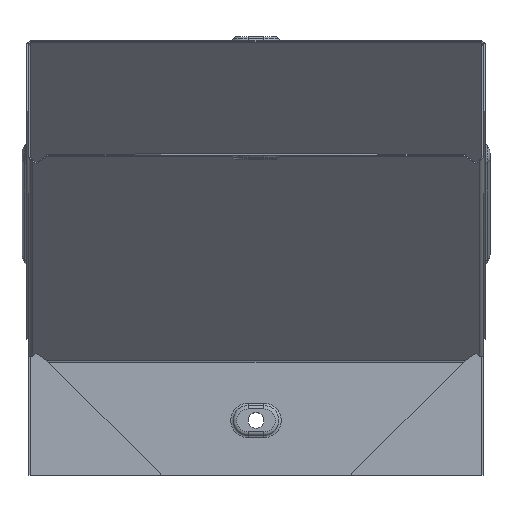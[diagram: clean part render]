
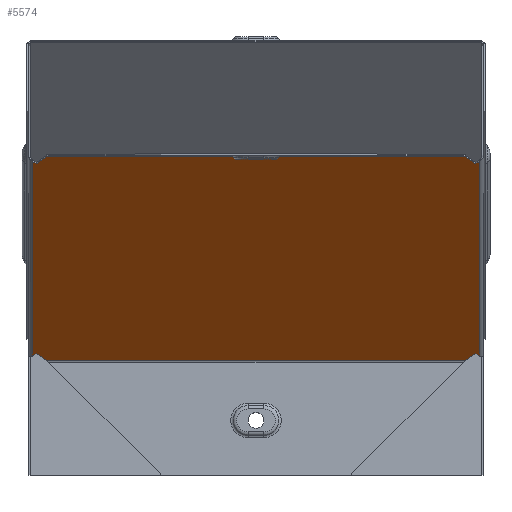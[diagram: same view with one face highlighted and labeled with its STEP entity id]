
A CAD part, top view. The second image highlights one B-rep face of the part: STEP entity #5574.
In plain terms, the highlighted planar face has unit normal (0, -0.707, 0.707).
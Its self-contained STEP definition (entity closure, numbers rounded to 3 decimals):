
#6 = LINE ( 'NONE', #7239, #7191 ) ;
#92 = CARTESIAN_POINT ( 'NONE',  ( -100.299, 69.208, 19.208 ) ) ;
#119 = LINE ( 'NONE', #5381, #3688 ) ;
#203 = EDGE_CURVE ( 'NONE', #3187, #4937, #2830, .T. ) ;
#331 = LINE ( 'NONE', #515, #6036 ) ;
#381 = ORIENTED_EDGE ( 'NONE', *, *, #6304, .T. ) ;
#417 = AXIS2_PLACEMENT_3D ( 'NONE', #7309, #6710, #3172 ) ;
#505 = VECTOR ( 'NONE', #5973, 1000. ) ;
#515 = CARTESIAN_POINT ( 'NONE',  ( 98.2, 70., 20. ) ) ;
#534 = CARTESIAN_POINT ( 'NONE',  ( -96.592, -16.588, -66.588 ) ) ;
#811 = DIRECTION ( 'NONE',  ( 0.707, -0.5, -0.5 ) ) ;
#865 = EDGE_CURVE ( 'NONE', #7234, #3322, #6, .T. ) ;
#868 = VERTEX_POINT ( 'NONE', #1388 ) ;
#948 = VECTOR ( 'NONE', #2337, 1000. ) ;
#1021 = LINE ( 'NONE', #2824, #7084 ) ;
#1062 = DIRECTION ( 'NONE',  ( 0., -0.707, -0.707 ) ) ;
#1109 = DIRECTION ( 'NONE',  ( 0.707, 0.5, 0.5 ) ) ;
#1143 = EDGE_CURVE ( 'NONE', #5464, #1365, #2919, .T. ) ;
#1192 = EDGE_LOOP ( 'NONE', ( #2801, #1221, #5730, #381, #3476, #2197, #2911, #2889, #3342, #5511, #5537, #6218 ) ) ;
#1215 = CARTESIAN_POINT ( 'NONE',  ( -41.546, 105.512, 55.512 ) ) ;
#1221 = ORIENTED_EDGE ( 'NONE', *, *, #7388, .T. ) ;
#1250 = DIRECTION ( 'NONE',  ( -0.707, 0.5, 0.5 ) ) ;
#1365 = VERTEX_POINT ( 'NONE', #1426 ) ;
#1388 = CARTESIAN_POINT ( 'NONE',  ( -98.2, -17.724, -67.724 ) ) ;
#1426 = CARTESIAN_POINT ( 'NONE',  ( -98.2, 67.724, 17.724 ) ) ;
#1466 = DIRECTION ( 'NONE',  ( -0.707, 0.5, 0.5 ) ) ;
#1597 = VERTEX_POINT ( 'NONE', #7020 ) ;
#1813 = VERTEX_POINT ( 'NONE', #5663 ) ;
#1889 = EDGE_CURVE ( 'NONE', #1365, #868, #1021, .T. ) ;
#1926 = EDGE_CURVE ( 'NONE', #1597, #1813, #6805, .T. ) ;
#1960 = LINE ( 'NONE', #1215, #7296 ) ;
#2067 = LINE ( 'NONE', #5921, #505 ) ;
#2197 = ORIENTED_EDGE ( 'NONE', *, *, #1889, .T. ) ;
#2261 = CARTESIAN_POINT ( 'NONE',  ( 96.592, 66.588, 16.588 ) ) ;
#2327 = LINE ( 'NONE', #6067, #5923 ) ;
#2337 = DIRECTION ( 'NONE',  ( -1., 0., 0. ) ) ;
#2357 = DIRECTION ( 'NONE',  ( -1., 0., 0. ) ) ;
#2429 = DIRECTION ( 'NONE',  ( 0.707, -0.5, -0.5 ) ) ;
#2668 = LINE ( 'NONE', #5802, #4265 ) ;
#2801 = ORIENTED_EDGE ( 'NONE', *, *, #4970, .T. ) ;
#2824 = CARTESIAN_POINT ( 'NONE',  ( -98.2, 70., 20. ) ) ;
#2830 = LINE ( 'NONE', #2971, #948 ) ;
#2889 = ORIENTED_EDGE ( 'NONE', *, *, #6476, .T. ) ;
#2911 = ORIENTED_EDGE ( 'NONE', *, *, #2934, .T. ) ;
#2913 = DIRECTION ( 'NONE',  ( 0.707, 0.5, 0.5 ) ) ;
#2919 = LINE ( 'NONE', #92, #3590 ) ;
#2934 = EDGE_CURVE ( 'NONE', #868, #6618, #6316, .T. ) ;
#2971 = CARTESIAN_POINT ( 'NONE',  ( 98.2, -19.707, -69.707 ) ) ;
#3172 = DIRECTION ( 'NONE',  ( 0., 0.707, 0.707 ) ) ;
#3187 = VERTEX_POINT ( 'NONE', #4890 ) ;
#3322 = VERTEX_POINT ( 'NONE', #7387 ) ;
#3342 = ORIENTED_EDGE ( 'NONE', *, *, #203, .F. ) ;
#3366 = VERTEX_POINT ( 'NONE', #2261 ) ;
#3431 = DIRECTION ( 'NONE',  ( 0., -0.707, -0.707 ) ) ;
#3476 = ORIENTED_EDGE ( 'NONE', *, *, #1143, .T. ) ;
#3507 = DIRECTION ( 'NONE',  ( -0.707, -0.5, -0.5 ) ) ;
#3590 = VECTOR ( 'NONE', #1250, 1000. ) ;
#3688 = VECTOR ( 'NONE', #2429, 1000. ) ;
#4006 = CARTESIAN_POINT ( 'NONE',  ( -92.181, -19.707, -69.707 ) ) ;
#4081 = CARTESIAN_POINT ( 'NONE',  ( 98.2, 69.707, 19.707 ) ) ;
#4265 = VECTOR ( 'NONE', #1109, 1000. ) ;
#4403 = EDGE_CURVE ( 'NONE', #7318, #3322, #331, .T. ) ;
#4470 = VECTOR ( 'NONE', #2913, 1000. ) ;
#4890 = CARTESIAN_POINT ( 'NONE',  ( 92.181, -19.707, -69.707 ) ) ;
#4937 = VERTEX_POINT ( 'NONE', #4006 ) ;
#4970 = EDGE_CURVE ( 'NONE', #7318, #3366, #2067, .T. ) ;
#5233 = VECTOR ( 'NONE', #2357, 1000. ) ;
#5381 = CARTESIAN_POINT ( 'NONE',  ( -41.546, -55.512, -105.512 ) ) ;
#5389 = FACE_OUTER_BOUND ( 'NONE', #1192, .T. ) ;
#5435 = CARTESIAN_POINT ( 'NONE',  ( -96.592, 66.588, 16.588 ) ) ;
#5464 = VERTEX_POINT ( 'NONE', #5435 ) ;
#5511 = ORIENTED_EDGE ( 'NONE', *, *, #5812, .T. ) ;
#5537 = ORIENTED_EDGE ( 'NONE', *, *, #865, .T. ) ;
#5574 = ADVANCED_FACE ( 'NONE', ( #5389 ), #6068, .F. ) ;
#5663 = CARTESIAN_POINT ( 'NONE',  ( -92.181, 69.707, 19.707 ) ) ;
#5730 = ORIENTED_EDGE ( 'NONE', *, *, #1926, .T. ) ;
#5802 = CARTESIAN_POINT ( 'NONE',  ( 41.546, -55.512, -105.512 ) ) ;
#5812 = EDGE_CURVE ( 'NONE', #3187, #7234, #2668, .T. ) ;
#5921 = CARTESIAN_POINT ( 'NONE',  ( 100.299, 69.208, 19.208 ) ) ;
#5923 = VECTOR ( 'NONE', #1466, 1000. ) ;
#5973 = DIRECTION ( 'NONE',  ( -0.707, -0.5, -0.5 ) ) ;
#6021 = CARTESIAN_POINT ( 'NONE',  ( 98.2, 67.724, 17.724 ) ) ;
#6036 = VECTOR ( 'NONE', #1062, 1000. ) ;
#6067 = CARTESIAN_POINT ( 'NONE',  ( 41.546, 105.512, 55.512 ) ) ;
#6068 = PLANE ( 'NONE',  #417 ) ;
#6218 = ORIENTED_EDGE ( 'NONE', *, *, #4403, .F. ) ;
#6304 = EDGE_CURVE ( 'NONE', #1813, #5464, #1960, .T. ) ;
#6316 = LINE ( 'NONE', #7601, #4470 ) ;
#6476 = EDGE_CURVE ( 'NONE', #6618, #4937, #119, .T. ) ;
#6618 = VERTEX_POINT ( 'NONE', #534 ) ;
#6710 = DIRECTION ( 'NONE',  ( 0., 0.707, -0.707 ) ) ;
#6805 = LINE ( 'NONE', #4081, #5233 ) ;
#7020 = CARTESIAN_POINT ( 'NONE',  ( 92.181, 69.707, 19.707 ) ) ;
#7024 = CARTESIAN_POINT ( 'NONE',  ( 96.592, -16.588, -66.588 ) ) ;
#7084 = VECTOR ( 'NONE', #3431, 1000. ) ;
#7191 = VECTOR ( 'NONE', #811, 1000. ) ;
#7234 = VERTEX_POINT ( 'NONE', #7024 ) ;
#7239 = CARTESIAN_POINT ( 'NONE',  ( 100.299, -19.208, -69.208 ) ) ;
#7296 = VECTOR ( 'NONE', #3507, 1000. ) ;
#7309 = CARTESIAN_POINT ( 'NONE',  ( 98.2, 70., 20. ) ) ;
#7318 = VERTEX_POINT ( 'NONE', #6021 ) ;
#7387 = CARTESIAN_POINT ( 'NONE',  ( 98.2, -17.724, -67.724 ) ) ;
#7388 = EDGE_CURVE ( 'NONE', #3366, #1597, #2327, .T. ) ;
#7601 = CARTESIAN_POINT ( 'NONE',  ( -100.299, -19.208, -69.208 ) ) ;
